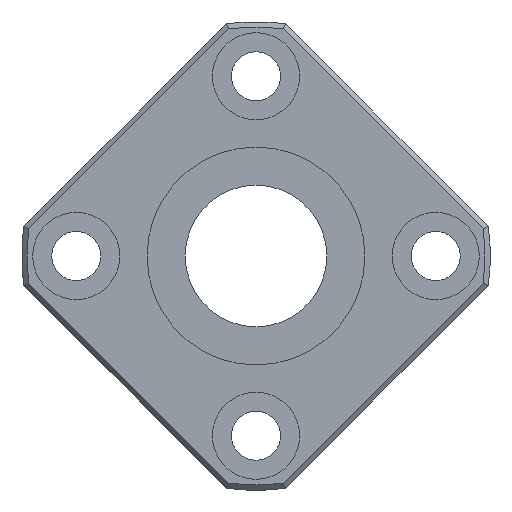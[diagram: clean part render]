
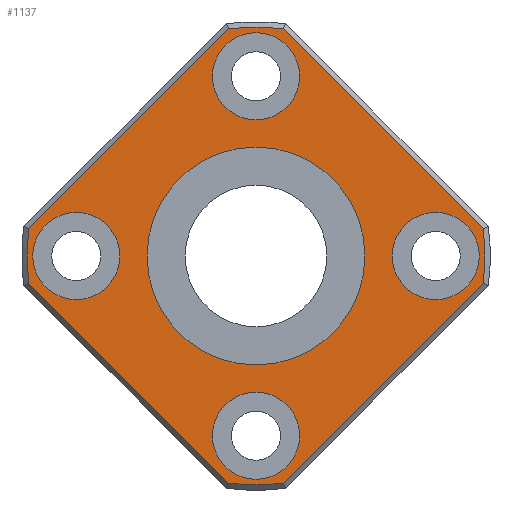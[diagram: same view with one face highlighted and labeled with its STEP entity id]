
A CAD part, left-side view. The second image highlights one B-rep face of the part: STEP entity #1137.
In plain terms, the highlighted planar face has unit normal (-1, 0, 0).
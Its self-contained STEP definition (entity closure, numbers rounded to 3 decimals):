
#713=CARTESIAN_POINT('',(0.0,2.482,-20.853));
#714=VERTEX_POINT('',#713);
#722=CARTESIAN_POINT('',(0.0,20.853,-2.482));
#723=VERTEX_POINT('',#722);
#724=CARTESIAN_POINT('',(0.0,2.482,-20.853));
#725=DIRECTION('',(0.0,0.707,0.707));
#726=VECTOR('',#725,25.981);
#727=LINE('',#724,#726);
#728=EDGE_CURVE('',#714,#723,#727,.T.);
#755=CARTESIAN_POINT('',(0.0,20.853,2.482));
#756=VERTEX_POINT('',#755);
#757=CARTESIAN_POINT('',(0.0,0.0,0.0));
#758=DIRECTION('',(1.0,0.0,0.0));
#759=DIRECTION('',(0.0,0.0,1.0));
#760=AXIS2_PLACEMENT_3D('',#757,#758,#759);
#761=CIRCLE('',#760,21.0);
#762=EDGE_CURVE('',#723,#756,#761,.T.);
#788=CARTESIAN_POINT('',(0.0,2.482,20.853));
#789=VERTEX_POINT('',#788);
#790=CARTESIAN_POINT('',(0.0,20.853,2.482));
#791=DIRECTION('',(0.0,-0.707,0.707));
#792=VECTOR('',#791,25.981);
#793=LINE('',#790,#792);
#794=EDGE_CURVE('',#756,#789,#793,.T.);
#821=CARTESIAN_POINT('',(0.0,-2.482,20.853));
#822=VERTEX_POINT('',#821);
#823=CARTESIAN_POINT('',(0.0,0.0,0.0));
#824=DIRECTION('',(1.0,0.0,0.0));
#825=DIRECTION('',(0.0,0.0,1.0));
#826=AXIS2_PLACEMENT_3D('',#823,#824,#825);
#827=CIRCLE('',#826,21.0);
#828=EDGE_CURVE('',#789,#822,#827,.T.);
#854=CARTESIAN_POINT('',(0.0,-20.853,2.482));
#855=VERTEX_POINT('',#854);
#856=CARTESIAN_POINT('',(0.0,-2.482,20.853));
#857=DIRECTION('',(0.0,-0.707,-0.707));
#858=VECTOR('',#857,25.981);
#859=LINE('',#856,#858);
#860=EDGE_CURVE('',#822,#855,#859,.T.);
#887=CARTESIAN_POINT('',(0.0,-20.853,-2.482));
#888=VERTEX_POINT('',#887);
#889=CARTESIAN_POINT('',(0.0,0.0,0.0));
#890=DIRECTION('',(1.0,0.0,0.0));
#891=DIRECTION('',(0.0,0.0,1.0));
#892=AXIS2_PLACEMENT_3D('',#889,#890,#891);
#893=CIRCLE('',#892,21.0);
#894=EDGE_CURVE('',#855,#888,#893,.T.);
#920=CARTESIAN_POINT('',(0.0,-2.482,-20.853));
#921=VERTEX_POINT('',#920);
#922=CARTESIAN_POINT('',(0.0,-20.853,-2.482));
#923=DIRECTION('',(0.0,0.707,-0.707));
#924=VECTOR('',#923,25.981);
#925=LINE('',#922,#924);
#926=EDGE_CURVE('',#888,#921,#925,.T.);
#951=CARTESIAN_POINT('',(0.0,0.0,0.0));
#952=DIRECTION('',(1.0,0.0,0.0));
#953=DIRECTION('',(0.0,0.0,-1.0));
#954=AXIS2_PLACEMENT_3D('',#951,#952,#953);
#955=CIRCLE('',#954,21.0);
#956=EDGE_CURVE('',#921,#714,#955,.T.);
#1067=CARTESIAN_POINT('',(0.0,0.0,10.75));
#1068=DIRECTION('',(-1.0,0.0,0.0));
#1069=DIRECTION('',(0.0,0.0,1.0));
#1070=AXIS2_PLACEMENT_3D('',#1067,#1068,#1069);
#1071=PLANE('',#1070);
#1072=ORIENTED_EDGE('',*,*,#728,.F.);
#1073=ORIENTED_EDGE('',*,*,#956,.F.);
#1074=ORIENTED_EDGE('',*,*,#926,.F.);
#1075=ORIENTED_EDGE('',*,*,#894,.F.);
#1076=ORIENTED_EDGE('',*,*,#860,.F.);
#1077=ORIENTED_EDGE('',*,*,#828,.F.);
#1078=ORIENTED_EDGE('',*,*,#794,.F.);
#1079=ORIENTED_EDGE('',*,*,#762,.F.);
#1080=EDGE_LOOP('',(#1072,#1073,#1074,#1075,#1076,#1077,#1078,#1079));
#1081=FACE_OUTER_BOUND('',#1080,.T.);
#1082=CARTESIAN_POINT('',(0.0,0.0,10.));
#1083=VERTEX_POINT('',#1082);
#1084=CARTESIAN_POINT('',(0.0,0.0,0.0));
#1085=DIRECTION('',(-1.0,0.0,0.0));
#1086=DIRECTION('',(0.0,0.0,1.0));
#1087=AXIS2_PLACEMENT_3D('',#1084,#1085,#1086);
#1088=CIRCLE('',#1087,10.);
#1089=EDGE_CURVE('',#1083,#1083,#1088,.T.);
#1090=ORIENTED_EDGE('',*,*,#1089,.F.);
#1091=EDGE_LOOP('',(#1090));
#1092=FACE_BOUND('',#1091,.T.);
#1093=CARTESIAN_POINT('',(0.0,-12.5,0.));
#1094=VERTEX_POINT('',#1093);
#1095=CARTESIAN_POINT('',(0.0,-16.5,0.));
#1096=DIRECTION('',(1.0,0.0,0.0));
#1097=DIRECTION('',(0.0,1.0,0.0));
#1098=AXIS2_PLACEMENT_3D('',#1095,#1096,#1097);
#1099=CIRCLE('',#1098,4.0);
#1100=EDGE_CURVE('',#1094,#1094,#1099,.T.);
#1101=ORIENTED_EDGE('',*,*,#1100,.T.);
#1102=EDGE_LOOP('',(#1101));
#1103=FACE_BOUND('',#1102,.T.);
#1104=CARTESIAN_POINT('',(0.0,20.5,0.));
#1105=VERTEX_POINT('',#1104);
#1106=CARTESIAN_POINT('',(0.0,16.5,0.));
#1107=DIRECTION('',(1.0,0.0,0.0));
#1108=DIRECTION('',(0.0,1.0,0.0));
#1109=AXIS2_PLACEMENT_3D('',#1106,#1107,#1108);
#1110=CIRCLE('',#1109,4.0);
#1111=EDGE_CURVE('',#1105,#1105,#1110,.T.);
#1112=ORIENTED_EDGE('',*,*,#1111,.T.);
#1113=EDGE_LOOP('',(#1112));
#1114=FACE_BOUND('',#1113,.T.);
#1115=CARTESIAN_POINT('',(0.0,4.,16.5));
#1116=VERTEX_POINT('',#1115);
#1117=CARTESIAN_POINT('',(0.0,0.,16.5));
#1118=DIRECTION('',(1.0,0.0,0.0));
#1119=DIRECTION('',(0.0,1.0,0.0));
#1120=AXIS2_PLACEMENT_3D('',#1117,#1118,#1119);
#1121=CIRCLE('',#1120,4.0);
#1122=EDGE_CURVE('',#1116,#1116,#1121,.T.);
#1123=ORIENTED_EDGE('',*,*,#1122,.T.);
#1124=EDGE_LOOP('',(#1123));
#1125=FACE_BOUND('',#1124,.T.);
#1126=CARTESIAN_POINT('',(0.0,4.,-16.5));
#1127=VERTEX_POINT('',#1126);
#1128=CARTESIAN_POINT('',(0.0,0.,-16.5));
#1129=DIRECTION('',(1.0,0.0,0.0));
#1130=DIRECTION('',(0.0,1.0,0.0));
#1131=AXIS2_PLACEMENT_3D('',#1128,#1129,#1130);
#1132=CIRCLE('',#1131,4.0);
#1133=EDGE_CURVE('',#1127,#1127,#1132,.T.);
#1134=ORIENTED_EDGE('',*,*,#1133,.T.);
#1135=EDGE_LOOP('',(#1134));
#1136=FACE_BOUND('',#1135,.T.);
#1137=ADVANCED_FACE('',(#1081,#1092,#1103,#1114,#1125,#1136),#1071,.T.);
